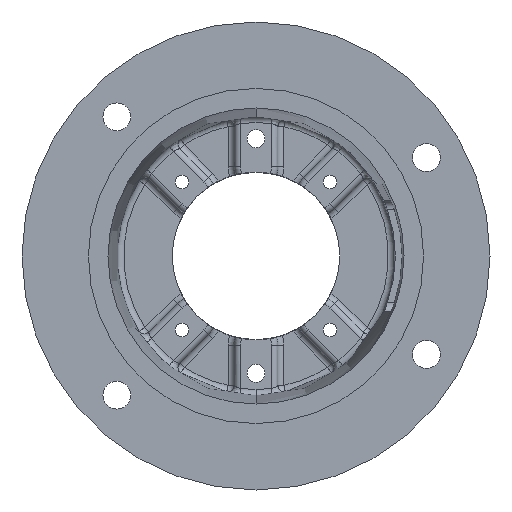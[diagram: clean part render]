
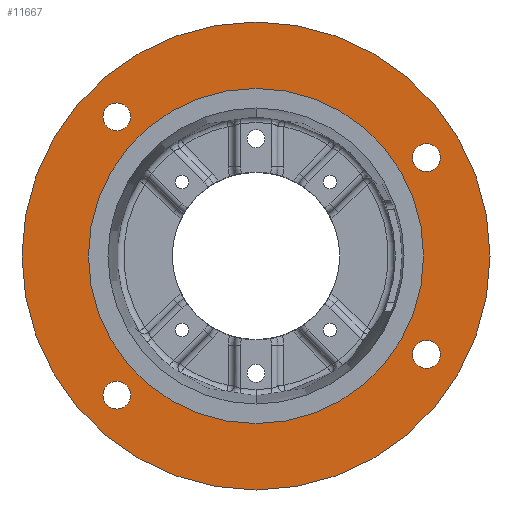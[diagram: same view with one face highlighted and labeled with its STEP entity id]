
A CAD part, front view. The second image highlights one B-rep face of the part: STEP entity #11667.
In plain terms, the highlighted planar face has unit normal (0, -1, 0).
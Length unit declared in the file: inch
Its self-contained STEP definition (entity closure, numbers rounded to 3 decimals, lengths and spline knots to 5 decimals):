
#53 = CARTESIAN_POINT ( 'NONE',  ( 0., 0., 0. ) ) ;
#212 = DIRECTION ( 'NONE',  ( 0., -1., 0. ) ) ;
#335 = CIRCLE ( 'NONE', #4792, 0.32812 ) ;
#370 = ORIENTED_EDGE ( 'NONE', *, *, #6475, .T. ) ;
#639 = VERTEX_POINT ( 'NONE', #7283 ) ;
#803 = CARTESIAN_POINT ( 'NONE',  ( -3.27037, 0., -2.94224 ) ) ;
#1137 = ORIENTED_EDGE ( 'NONE', *, *, #9096, .F. ) ;
#1193 = DIRECTION ( 'NONE',  ( 0., 0., -1. ) ) ;
#1221 = ORIENTED_EDGE ( 'NONE', *, *, #2955, .F. ) ;
#1258 = FACE_BOUND ( 'NONE', #4905, .T. ) ;
#1377 = VERTEX_POINT ( 'NONE', #12954 ) ;
#2057 = CARTESIAN_POINT ( 'NONE',  ( 0., 0., 0. ) ) ;
#2411 = EDGE_CURVE ( 'NONE', #11354, #6826, #8881, .T. ) ;
#2421 = DIRECTION ( 'NONE',  ( 0., -1., 0. ) ) ;
#2464 = CIRCLE ( 'NONE', #2516, 0.32812 ) ;
#2515 = ORIENTED_EDGE ( 'NONE', *, *, #5363, .F. ) ;
#2516 = AXIS2_PLACEMENT_3D ( 'NONE', #3515, #3512, #3460 ) ;
#2551 = CARTESIAN_POINT ( 'NONE',  ( -3.27037, 0., -3.27037 ) ) ;
#2672 = AXIS2_PLACEMENT_3D ( 'NONE', #9043, #2421, #10127 ) ;
#2955 = EDGE_CURVE ( 'NONE', #639, #13177, #2464, .T. ) ;
#3145 = ORIENTED_EDGE ( 'NONE', *, *, #13839, .F. ) ;
#3203 = DIRECTION ( 'NONE',  ( 0., 0., -1. ) ) ;
#3226 = CARTESIAN_POINT ( 'NONE',  ( -3.27037, 0., -3.59849 ) ) ;
#3303 = VERTEX_POINT ( 'NONE', #12961 ) ;
#3390 = EDGE_CURVE ( 'NONE', #3303, #6092, #7484, .T. ) ;
#3460 = DIRECTION ( 'NONE',  ( 0., 0., -1. ) ) ;
#3461 = CARTESIAN_POINT ( 'NONE',  ( 4.00537, 0., -2.64063 ) ) ;
#3499 = DIRECTION ( 'NONE',  ( 0., 1., 0. ) ) ;
#3512 = DIRECTION ( 'NONE',  ( 0., -1., 0. ) ) ;
#3515 = CARTESIAN_POINT ( 'NONE',  ( -3.27037, 0., 3.27037 ) ) ;
#3527 = AXIS2_PLACEMENT_3D ( 'NONE', #10154, #3568, #11250 ) ;
#3568 = DIRECTION ( 'NONE',  ( 0., -1., 0. ) ) ;
#3678 = CARTESIAN_POINT ( 'NONE',  ( -3.27037, 0., 3.59849 ) ) ;
#3685 = DIRECTION ( 'NONE',  ( 0., 0., -1. ) ) ;
#4500 = AXIS2_PLACEMENT_3D ( 'NONE', #13121, #6569, #14235 ) ;
#4671 = CIRCLE ( 'NONE', #7968, 0.32812 ) ;
#4792 = AXIS2_PLACEMENT_3D ( 'NONE', #2551, #10259, #3685 ) ;
#4901 = AXIS2_PLACEMENT_3D ( 'NONE', #10078, #3499, #11180 ) ;
#4905 = EDGE_LOOP ( 'NONE', ( #1221, #4970 ) ) ;
#4936 = CARTESIAN_POINT ( 'NONE',  ( 4.00537, 0., 2.3125 ) ) ;
#4970 = ORIENTED_EDGE ( 'NONE', *, *, #7886, .F. ) ;
#5047 = EDGE_CURVE ( 'NONE', #13737, #7565, #335, .T. ) ;
#5139 = CARTESIAN_POINT ( 'NONE',  ( -3.27037, 0., 3.27037 ) ) ;
#5363 = EDGE_CURVE ( 'NONE', #7712, #11044, #8642, .T. ) ;
#5621 = CARTESIAN_POINT ( 'NONE',  ( 4.00537, 0., 2.64062 ) ) ;
#5774 = ORIENTED_EDGE ( 'NONE', *, *, #2411, .F. ) ;
#6014 = DIRECTION ( 'NONE',  ( 0., 0., -1. ) ) ;
#6071 = AXIS2_PLACEMENT_3D ( 'NONE', #2057, #9793, #3203 ) ;
#6092 = VERTEX_POINT ( 'NONE', #12793 ) ;
#6224 = DIRECTION ( 'NONE',  ( 0., 0., -1. ) ) ;
#6254 = ORIENTED_EDGE ( 'NONE', *, *, #8976, .F. ) ;
#6475 = EDGE_CURVE ( 'NONE', #6092, #3303, #10900, .T. ) ;
#6569 = DIRECTION ( 'NONE',  ( 0., -1., 0. ) ) ;
#6777 = FACE_OUTER_BOUND ( 'NONE', #8853, .T. ) ;
#6826 = VERTEX_POINT ( 'NONE', #9547 ) ;
#6836 = CARTESIAN_POINT ( 'NONE',  ( -3.27037, 0., -3.27037 ) ) ;
#7023 = CIRCLE ( 'NONE', #2672, 0.32812 ) ;
#7134 = FACE_BOUND ( 'NONE', #13645, .T. ) ;
#7193 = AXIS2_PLACEMENT_3D ( 'NONE', #6836, #212, #7972 ) ;
#7283 = CARTESIAN_POINT ( 'NONE',  ( -3.27037, 0., 2.94224 ) ) ;
#7317 = DIRECTION ( 'NONE',  ( 0., 0., -1. ) ) ;
#7402 = ORIENTED_EDGE ( 'NONE', *, *, #10748, .F. ) ;
#7484 = CIRCLE ( 'NONE', #12569, 5.5 ) ;
#7503 = CIRCLE ( 'NONE', #7669, 0.32812 ) ;
#7565 = VERTEX_POINT ( 'NONE', #3226 ) ;
#7650 = DIRECTION ( 'NONE',  ( 0., -1., 0. ) ) ;
#7660 = CARTESIAN_POINT ( 'NONE',  ( 0., 0., 0. ) ) ;
#7669 = AXIS2_PLACEMENT_3D ( 'NONE', #5139, #12791, #6224 ) ;
#7712 = VERTEX_POINT ( 'NONE', #12320 ) ;
#7804 = CARTESIAN_POINT ( 'NONE',  ( 4.00537, 0., 2.3125 ) ) ;
#7809 = DIRECTION ( 'NONE',  ( 0., -1., 0. ) ) ;
#7815 = DIRECTION ( 'NONE',  ( 0., 0., -1. ) ) ;
#7819 = DIRECTION ( 'NONE',  ( 0., -1., 0. ) ) ;
#7886 = EDGE_CURVE ( 'NONE', #13177, #639, #7503, .T. ) ;
#7943 = CIRCLE ( 'NONE', #3527, 3.9385 ) ;
#7968 = AXIS2_PLACEMENT_3D ( 'NONE', #4936, #12596, #6014 ) ;
#7972 = DIRECTION ( 'NONE',  ( 0., 0., -1. ) ) ;
#7987 = EDGE_LOOP ( 'NONE', ( #2515, #6254 ) ) ;
#8267 = AXIS2_PLACEMENT_3D ( 'NONE', #7804, #7809, #7815 ) ;
#8642 = CIRCLE ( 'NONE', #14058, 3.9385 ) ;
#8853 = EDGE_LOOP ( 'NONE', ( #9164, #370 ) ) ;
#8881 = CIRCLE ( 'NONE', #8267, 0.32812 ) ;
#8976 = EDGE_CURVE ( 'NONE', #11044, #7712, #7943, .T. ) ;
#9043 = CARTESIAN_POINT ( 'NONE',  ( 4.00537, 0., -2.3125 ) ) ;
#9096 = EDGE_CURVE ( 'NONE', #6826, #11354, #4671, .T. ) ;
#9164 = ORIENTED_EDGE ( 'NONE', *, *, #3390, .T. ) ;
#9526 = VERTEX_POINT ( 'NONE', #3461 ) ;
#9547 = CARTESIAN_POINT ( 'NONE',  ( 4.00537, 0., 1.98437 ) ) ;
#9730 = FACE_BOUND ( 'NONE', #7987, .T. ) ;
#9793 = DIRECTION ( 'NONE',  ( 0., -1., 0. ) ) ;
#10039 = FACE_BOUND ( 'NONE', #13632, .T. ) ;
#10078 = CARTESIAN_POINT ( 'NONE',  ( -5.5, 0., 0. ) ) ;
#10127 = DIRECTION ( 'NONE',  ( 0., 0., -1. ) ) ;
#10154 = CARTESIAN_POINT ( 'NONE',  ( 0., 0., 0. ) ) ;
#10259 = DIRECTION ( 'NONE',  ( 0., -1., 0. ) ) ;
#10748 = EDGE_CURVE ( 'NONE', #9526, #1377, #12964, .T. ) ;
#10900 = CIRCLE ( 'NONE', #6071, 5.5 ) ;
#11040 = PLANE ( 'NONE',  #4901 ) ;
#11044 = VERTEX_POINT ( 'NONE', #13851 ) ;
#11180 = DIRECTION ( 'NONE',  ( 0., 0., 1. ) ) ;
#11250 = DIRECTION ( 'NONE',  ( 0., 0., -1. ) ) ;
#11354 = VERTEX_POINT ( 'NONE', #5621 ) ;
#11410 = EDGE_LOOP ( 'NONE', ( #1137, #5774 ) ) ;
#11667 = ADVANCED_FACE ( 'NONE', ( #12617, #10039, #7134, #1258, #9730, #6777 ), #11040, .F. ) ;
#12320 = CARTESIAN_POINT ( 'NONE',  ( 0., 0., -3.9385 ) ) ;
#12569 = AXIS2_PLACEMENT_3D ( 'NONE', #7660, #7650, #7317 ) ;
#12596 = DIRECTION ( 'NONE',  ( 0., -1., 0. ) ) ;
#12617 = FACE_BOUND ( 'NONE', #11410, .T. ) ;
#12791 = DIRECTION ( 'NONE',  ( 0., -1., 0. ) ) ;
#12793 = CARTESIAN_POINT ( 'NONE',  ( 0., 0., 5.5 ) ) ;
#12954 = CARTESIAN_POINT ( 'NONE',  ( 4.00537, 0., -1.98438 ) ) ;
#12961 = CARTESIAN_POINT ( 'NONE',  ( 0., 0., -5.5 ) ) ;
#12964 = CIRCLE ( 'NONE', #4500, 0.32812 ) ;
#13121 = CARTESIAN_POINT ( 'NONE',  ( 4.00537, 0., -2.3125 ) ) ;
#13123 = EDGE_CURVE ( 'NONE', #7565, #13737, #14069, .T. ) ;
#13177 = VERTEX_POINT ( 'NONE', #3678 ) ;
#13632 = EDGE_LOOP ( 'NONE', ( #7402, #3145 ) ) ;
#13645 = EDGE_LOOP ( 'NONE', ( #13994, #13936 ) ) ;
#13737 = VERTEX_POINT ( 'NONE', #803 ) ;
#13839 = EDGE_CURVE ( 'NONE', #1377, #9526, #7023, .T. ) ;
#13851 = CARTESIAN_POINT ( 'NONE',  ( 0., 0., 3.9385 ) ) ;
#13936 = ORIENTED_EDGE ( 'NONE', *, *, #5047, .F. ) ;
#13994 = ORIENTED_EDGE ( 'NONE', *, *, #13123, .F. ) ;
#14058 = AXIS2_PLACEMENT_3D ( 'NONE', #53, #7819, #1193 ) ;
#14069 = CIRCLE ( 'NONE', #7193, 0.32812 ) ;
#14235 = DIRECTION ( 'NONE',  ( 0., 0., -1. ) ) ;
